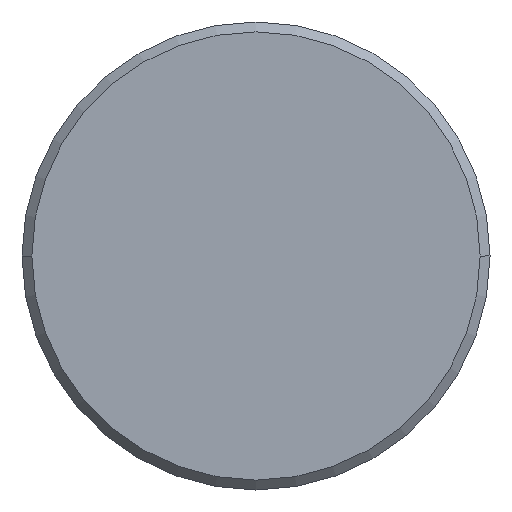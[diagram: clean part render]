
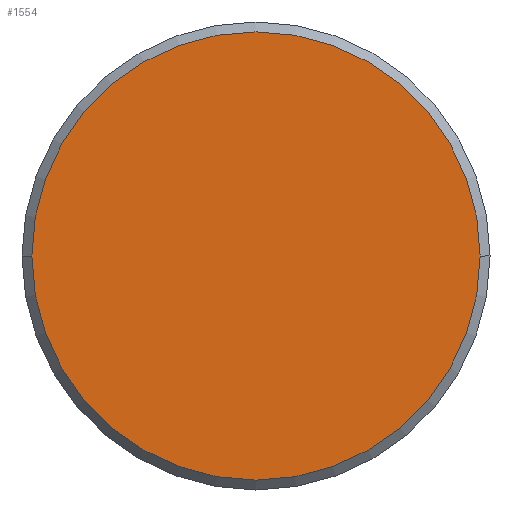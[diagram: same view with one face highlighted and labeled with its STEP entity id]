
A CAD part, left-side view. The second image highlights one B-rep face of the part: STEP entity #1554.
In plain terms, the highlighted planar face has unit normal (-1, 0, 0).
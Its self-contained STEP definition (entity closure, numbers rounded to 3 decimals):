
#1506=CARTESIAN_POINT('Vertex',(0.,45.5,0.)) ;
#1509=CARTESIAN_POINT('Axis2P3D Location',(0.,0.,0.)) ;
#1513=CARTESIAN_POINT('Vertex',(0.,-45.5,0.)) ;
#1533=CARTESIAN_POINT('Axis2P3D Location',(0.,0.,0.)) ;
#1545=CARTESIAN_POINT('Axis2P3D Location',(0.,0.,0.)) ;
#1510=DIRECTION('Axis2P3D Direction',(1.,0.,-0.)) ;
#1534=DIRECTION('Axis2P3D Direction',(1.,0.,-0.)) ;
#1546=DIRECTION('Axis2P3D Direction',(1.,0.,-0.)) ;
#1547=DIRECTION('Axis2P3D XDirection',(0.,1.,0.)) ;
#1511=AXIS2_PLACEMENT_3D('Circle Axis2P3D',#1509,#1510,$) ;
#1535=AXIS2_PLACEMENT_3D('Circle Axis2P3D',#1533,#1534,$) ;
#1548=AXIS2_PLACEMENT_3D('Plane Axis2P3D',#1545,#1546,#1547) ;
#1551=ORIENTED_EDGE('',*,*,#1537,.F.) ;
#1552=ORIENTED_EDGE('',*,*,#1515,.F.) ;
#1554=ADVANCED_FACE('395A-076-422',(#1553),#1549,.F.) ;
#1512=CIRCLE('generated circle',#1511,45.5) ;
#1536=CIRCLE('generated circle',#1535,45.5) ;
#1515=EDGE_CURVE('',#1507,#1514,#1512,.T.) ;
#1537=EDGE_CURVE('',#1514,#1507,#1536,.T.) ;
#1550=EDGE_LOOP('',(#1551,#1552)) ;
#1553=FACE_OUTER_BOUND('',#1550,.T.) ;
#1549=PLANE('Plane',#1548) ;
#1507=VERTEX_POINT('',#1506) ;
#1514=VERTEX_POINT('',#1513) ;
